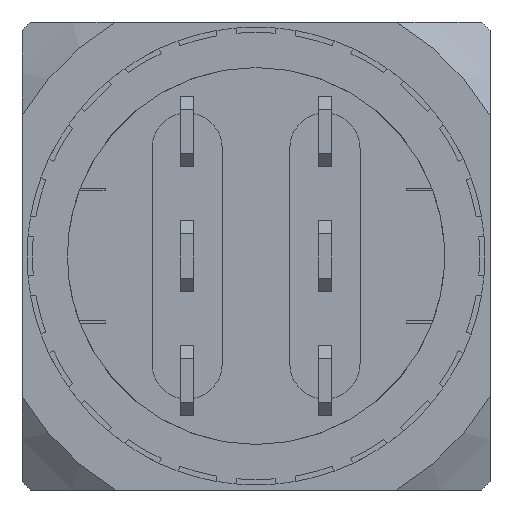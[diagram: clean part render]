
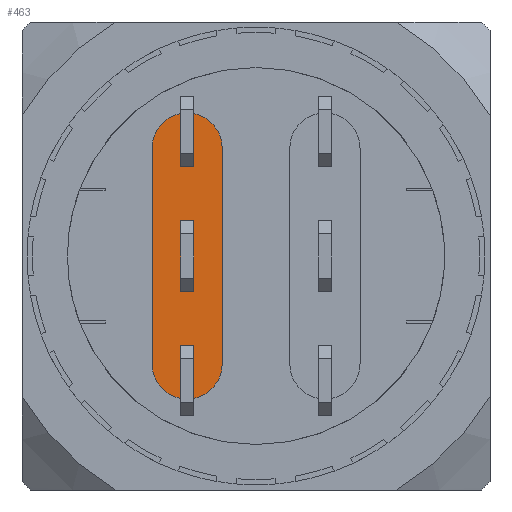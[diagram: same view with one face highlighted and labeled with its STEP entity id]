
A CAD part, front view. The second image highlights one B-rep face of the part: STEP entity #463.
In plain terms, the highlighted planar face has unit normal (0, -1, 0).
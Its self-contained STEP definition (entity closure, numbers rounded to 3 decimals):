
#3 = EDGE_CURVE ( 'NONE', #1071, #1082, #3263, .T. ) ;
#4 = EDGE_CURVE ( 'NONE', #1072, #1071, #1667, .T. ) ;
#5 = EDGE_CURVE ( 'NONE', #1073, #1072, #3269, .T. ) ;
#6 = EDGE_CURVE ( 'NONE', #1074, #1073, #4257, .T. ) ;
#7 = EDGE_CURVE ( 'NONE', #1075, #1074, #3275, .T. ) ;
#8 = EDGE_CURVE ( 'NONE', #1076, #1075, #3278, .T. ) ;
#9 = EDGE_CURVE ( 'NONE', #1077, #1076, #3281, .T. ) ;
#10 = EDGE_CURVE ( 'NONE', #1078, #1077, #4258, .T. ) ;
#11 = EDGE_CURVE ( 'NONE', #1079, #1078, #3287, .T. ) ;
#12 = EDGE_CURVE ( 'NONE', #1080, #1079, #4259, .T. ) ;
#13 = EDGE_CURVE ( 'NONE', #1082, #1081, #3293, .T. ) ;
#14 = EDGE_CURVE ( 'NONE', #1083, #1086, #3296, .T. ) ;
#15 = EDGE_CURVE ( 'NONE', #1081, #1080, #3299, .T. ) ;
#16 = EDGE_CURVE ( 'NONE', #1084, #1083, #3302, .T. ) ;
#17 = EDGE_CURVE ( 'NONE', #1086, #1085, #3305, .T. ) ;
#18 = EDGE_CURVE ( 'NONE', #1085, #1084, #3308, .T. ) ;
#463 = ADVANCED_FACE ( 'NONE', ( #8803, #8808 ), #4994, .T. ) ;
#1071 = VERTEX_POINT ( 'NONE', #5803 ) ;
#1072 = VERTEX_POINT ( 'NONE', #5804 ) ;
#1073 = VERTEX_POINT ( 'NONE', #5805 ) ;
#1074 = VERTEX_POINT ( 'NONE', #5806 ) ;
#1075 = VERTEX_POINT ( 'NONE', #5807 ) ;
#1076 = VERTEX_POINT ( 'NONE', #5808 ) ;
#1077 = VERTEX_POINT ( 'NONE', #5809 ) ;
#1078 = VERTEX_POINT ( 'NONE', #5810 ) ;
#1079 = VERTEX_POINT ( 'NONE', #5811 ) ;
#1080 = VERTEX_POINT ( 'NONE', #5812 ) ;
#1081 = VERTEX_POINT ( 'NONE', #5813 ) ;
#1082 = VERTEX_POINT ( 'NONE', #5814 ) ;
#1083 = VERTEX_POINT ( 'NONE', #5815 ) ;
#1084 = VERTEX_POINT ( 'NONE', #5816 ) ;
#1085 = VERTEX_POINT ( 'NONE', #5817 ) ;
#1086 = VERTEX_POINT ( 'NONE', #5818 ) ;
#1434 = ORIENTED_EDGE ( 'NONE', *, *, #17, .T. ) ;
#1436 = ORIENTED_EDGE ( 'NONE', *, *, #16, .T. ) ;
#1437 = ORIENTED_EDGE ( 'NONE', *, *, #18, .T. ) ;
#1438 = ORIENTED_EDGE ( 'NONE', *, *, #14, .T. ) ;
#1439 = ORIENTED_EDGE ( 'NONE', *, *, #13, .T. ) ;
#1440 = ORIENTED_EDGE ( 'NONE', *, *, #12, .T. ) ;
#1441 = ORIENTED_EDGE ( 'NONE', *, *, #15, .T. ) ;
#1442 = ORIENTED_EDGE ( 'NONE', *, *, #11, .T. ) ;
#1443 = ORIENTED_EDGE ( 'NONE', *, *, #10, .T. ) ;
#1444 = ORIENTED_EDGE ( 'NONE', *, *, #9, .T. ) ;
#1445 = ORIENTED_EDGE ( 'NONE', *, *, #8, .T. ) ;
#1446 = ORIENTED_EDGE ( 'NONE', *, *, #7, .T. ) ;
#1447 = ORIENTED_EDGE ( 'NONE', *, *, #6, .T. ) ;
#1448 = ORIENTED_EDGE ( 'NONE', *, *, #5, .T. ) ;
#1449 = ORIENTED_EDGE ( 'NONE', *, *, #4, .T. ) ;
#1450 = ORIENTED_EDGE ( 'NONE', *, *, #3, .T. ) ;
#1563 = EDGE_LOOP ( 'NONE', ( #1434, #1437, #1436, #1438 ) ) ;
#1564 = EDGE_LOOP ( 'NONE', ( #1439, #1441, #1440, #1442, #1443, #1444, #1445, #1446, #1447, #1448, #1449, #1450 ) ) ;
#1667 = CIRCLE ( 'NONE', #8831, 1.35 ) ;
#3259 = CARTESIAN_POINT ( 'NONE',  ( -2.65, -5., -4.15 ) ) ;
#3263 = LINE ( 'NONE', #3264, #8858 ) ;
#3264 = CARTESIAN_POINT ( 'NONE',  ( -2.9, -5., -4.15 ) ) ;
#3265 = DIRECTION ( 'NONE',  ( 0., 0., 1. ) ) ;
#3266 = DIRECTION ( 'NONE',  ( 0., -1., 0. ) ) ;
#3267 = DIRECTION ( 'NONE',  ( 1., 0., 0. ) ) ;
#3268 = CARTESIAN_POINT ( 'NONE',  ( -2.65, -5., 4.15 ) ) ;
#3269 = LINE ( 'NONE', #3270, #8836 ) ;
#3270 = CARTESIAN_POINT ( 'NONE',  ( -4., -5., -4.15 ) ) ;
#3271 = DIRECTION ( 'NONE',  ( 0., 0., -1. ) ) ;
#3272 = DIRECTION ( 'NONE',  ( 0., -1., 0. ) ) ;
#3273 = DIRECTION ( 'NONE',  ( 1., 0., 0. ) ) ;
#3274 = CARTESIAN_POINT ( 'NONE',  ( -2.65, -5., 4.15 ) ) ;
#3275 = LINE ( 'NONE', #3276, #8862 ) ;
#3276 = CARTESIAN_POINT ( 'NONE',  ( -2.9, -5., -4.15 ) ) ;
#3277 = DIRECTION ( 'NONE',  ( 0., 0., 1. ) ) ;
#3278 = LINE ( 'NONE', #3279, #8861 ) ;
#3279 = CARTESIAN_POINT ( 'NONE',  ( -2.65, -5., 3.45 ) ) ;
#3280 = DIRECTION ( 'NONE',  ( -1., 0., 0. ) ) ;
#3281 = LINE ( 'NONE', #3282, #8834 ) ;
#3282 = CARTESIAN_POINT ( 'NONE',  ( -2.4, -5., -4.15 ) ) ;
#3283 = DIRECTION ( 'NONE',  ( 0., 0., -1. ) ) ;
#3284 = DIRECTION ( 'NONE',  ( 0., -1., 0. ) ) ;
#3285 = DIRECTION ( 'NONE',  ( 1., 0., 0. ) ) ;
#3286 = CARTESIAN_POINT ( 'NONE',  ( -2.65, -5., -4.15 ) ) ;
#3287 = LINE ( 'NONE', #3288, #8863 ) ;
#3288 = CARTESIAN_POINT ( 'NONE',  ( -1.3, -5., -4.15 ) ) ;
#3289 = DIRECTION ( 'NONE',  ( 0., 0., 1. ) ) ;
#3290 = DIRECTION ( 'NONE',  ( 0., -1., 0. ) ) ;
#3291 = DIRECTION ( 'NONE',  ( 1., 0., 0. ) ) ;
#3293 = LINE ( 'NONE', #3294, #8838 ) ;
#3294 = CARTESIAN_POINT ( 'NONE',  ( -2.65, -5., -3.45 ) ) ;
#3295 = DIRECTION ( 'NONE',  ( 1., 0., 0. ) ) ;
#3296 = LINE ( 'NONE', #3297, #8846 ) ;
#3297 = CARTESIAN_POINT ( 'NONE',  ( -2.9, -5., -4.15 ) ) ;
#3298 = DIRECTION ( 'NONE',  ( 0., 0., 1. ) ) ;
#3299 = LINE ( 'NONE', #3300, #8840 ) ;
#3300 = CARTESIAN_POINT ( 'NONE',  ( -2.4, -5., -4.15 ) ) ;
#3301 = DIRECTION ( 'NONE',  ( 0., 0., -1. ) ) ;
#3302 = LINE ( 'NONE', #3303, #8847 ) ;
#3303 = CARTESIAN_POINT ( 'NONE',  ( -2.65, -5., -1.35 ) ) ;
#3304 = DIRECTION ( 'NONE',  ( -1., 0., 0. ) ) ;
#3305 = LINE ( 'NONE', #3306, #8848 ) ;
#3306 = CARTESIAN_POINT ( 'NONE',  ( -2.65, -5., 1.35 ) ) ;
#3307 = DIRECTION ( 'NONE',  ( 1., 0., 0. ) ) ;
#3308 = LINE ( 'NONE', #3309, #8856 ) ;
#3309 = CARTESIAN_POINT ( 'NONE',  ( -2.4, -5., -4.15 ) ) ;
#3310 = DIRECTION ( 'NONE',  ( 0., 0., -1. ) ) ;
#4257 = CIRCLE ( 'NONE', #8835, 1.35 ) ;
#4258 = CIRCLE ( 'NONE', #8859, 1.35 ) ;
#4259 = CIRCLE ( 'NONE', #8855, 1.35 ) ;
#4994 = PLANE ( 'NONE',  #8810 ) ;
#4995 = CARTESIAN_POINT ( 'NONE',  ( -2.65, -5., -4.15 ) ) ;
#4996 = DIRECTION ( 'NONE',  ( 0., -1., 0. ) ) ;
#4997 = DIRECTION ( 'NONE',  ( 1., 0., 0. ) ) ;
#5803 = CARTESIAN_POINT ( 'NONE',  ( -2.9, -5., -5.477 ) ) ;
#5804 = CARTESIAN_POINT ( 'NONE',  ( -4., -5., -4.15 ) ) ;
#5805 = CARTESIAN_POINT ( 'NONE',  ( -4., -5., 4.15 ) ) ;
#5806 = CARTESIAN_POINT ( 'NONE',  ( -2.9, -5., 5.477 ) ) ;
#5807 = CARTESIAN_POINT ( 'NONE',  ( -2.9, -5., 3.45 ) ) ;
#5808 = CARTESIAN_POINT ( 'NONE',  ( -2.4, -5., 3.45 ) ) ;
#5809 = CARTESIAN_POINT ( 'NONE',  ( -2.4, -5., 5.477 ) ) ;
#5810 = CARTESIAN_POINT ( 'NONE',  ( -1.3, -5., 4.15 ) ) ;
#5811 = CARTESIAN_POINT ( 'NONE',  ( -1.3, -5., -4.15 ) ) ;
#5812 = CARTESIAN_POINT ( 'NONE',  ( -2.4, -5., -5.477 ) ) ;
#5813 = CARTESIAN_POINT ( 'NONE',  ( -2.4, -5., -3.45 ) ) ;
#5814 = CARTESIAN_POINT ( 'NONE',  ( -2.9, -5., -3.45 ) ) ;
#5815 = CARTESIAN_POINT ( 'NONE',  ( -2.9, -5., -1.35 ) ) ;
#5816 = CARTESIAN_POINT ( 'NONE',  ( -2.4, -5., -1.35 ) ) ;
#5817 = CARTESIAN_POINT ( 'NONE',  ( -2.4, -5., 1.35 ) ) ;
#5818 = CARTESIAN_POINT ( 'NONE',  ( -2.9, -5., 1.35 ) ) ;
#8803 = FACE_BOUND ( 'NONE', #1563, .T. ) ;
#8808 = FACE_OUTER_BOUND ( 'NONE', #1564, .T. ) ;
#8810 = AXIS2_PLACEMENT_3D ( 'NONE', #4995, #4996, #4997 ) ;
#8831 = AXIS2_PLACEMENT_3D ( 'NONE', #3259, #3266, #3267 ) ;
#8834 = VECTOR ( 'NONE', #3283, 1000. ) ;
#8835 = AXIS2_PLACEMENT_3D ( 'NONE', #3268, #3272, #3273 ) ;
#8836 = VECTOR ( 'NONE', #3271, 1000. ) ;
#8838 = VECTOR ( 'NONE', #3295, 1000. ) ;
#8840 = VECTOR ( 'NONE', #3301, 1000. ) ;
#8846 = VECTOR ( 'NONE', #3298, 1000. ) ;
#8847 = VECTOR ( 'NONE', #3304, 1000. ) ;
#8848 = VECTOR ( 'NONE', #3307, 1000. ) ;
#8855 = AXIS2_PLACEMENT_3D ( 'NONE', #3286, #3290, #3291 ) ;
#8856 = VECTOR ( 'NONE', #3310, 1000. ) ;
#8858 = VECTOR ( 'NONE', #3265, 1000. ) ;
#8859 = AXIS2_PLACEMENT_3D ( 'NONE', #3274, #3284, #3285 ) ;
#8861 = VECTOR ( 'NONE', #3280, 1000. ) ;
#8862 = VECTOR ( 'NONE', #3277, 1000. ) ;
#8863 = VECTOR ( 'NONE', #3289, 1000. ) ;
